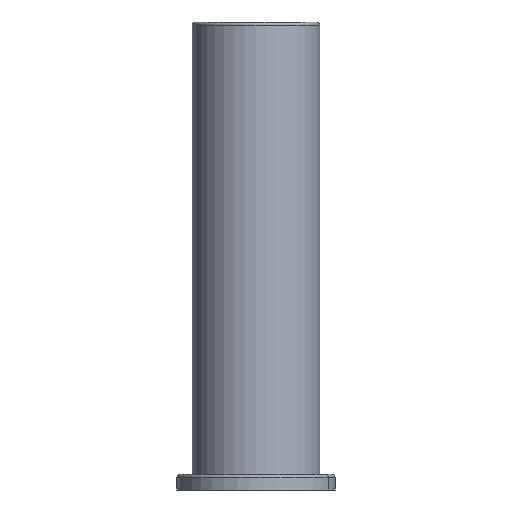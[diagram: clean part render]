
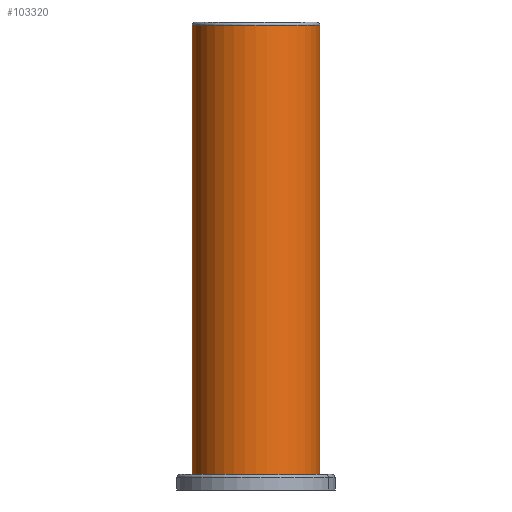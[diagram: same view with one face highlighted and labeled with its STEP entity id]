
A CAD part, left-side view. The second image highlights one B-rep face of the part: STEP entity #103320.
In plain terms, the highlighted cylindrical face has radius 20.5 mm (diameter 41 mm), a partial arc.
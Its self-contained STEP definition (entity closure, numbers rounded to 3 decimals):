
#1175 = DIRECTION ( 'NONE',  ( 0., 0., 1. ) ) ;
#1231 = DIRECTION ( 'NONE',  ( -1., 0., 0. ) ) ;
#10312 = EDGE_CURVE ( 'NONE', #174869, #109566, #41442, .T. ) ;
#17132 = CARTESIAN_POINT ( 'NONE',  ( 0., -3.547, -55. ) ) ;
#25504 = CARTESIAN_POINT ( 'NONE',  ( 0., 16.953, -55. ) ) ;
#26109 = CARTESIAN_POINT ( 'NONE',  ( 0., 16.953, -55. ) ) ;
#27234 = FACE_OUTER_BOUND ( 'NONE', #167891, .T. ) ;
#41442 = CIRCLE ( 'NONE', #100937, 20.5 ) ;
#48547 = ORIENTED_EDGE ( 'NONE', *, *, #88292, .T. ) ;
#52738 = ORIENTED_EDGE ( 'NONE', *, *, #68376, .F. ) ;
#59088 = CARTESIAN_POINT ( 'NONE',  ( 0., -3.547, -55. ) ) ;
#63108 = DIRECTION ( 'NONE',  ( 0., 0., 1. ) ) ;
#68376 = EDGE_CURVE ( 'NONE', #174869, #104235, #158208, .T. ) ;
#71055 = ORIENTED_EDGE ( 'NONE', *, *, #10312, .T. ) ;
#76926 = CIRCLE ( 'NONE', #136635, 20.5 ) ;
#80126 = VECTOR ( 'NONE', #1175, 1000. ) ;
#80504 = VERTEX_POINT ( 'NONE', #86644 ) ;
#83750 = DIRECTION ( 'NONE',  ( 0., 0., 1. ) ) ;
#86644 = CARTESIAN_POINT ( 'NONE',  ( 0., -3.547, 89.5 ) ) ;
#88292 = EDGE_CURVE ( 'NONE', #80504, #104235, #76926, .T. ) ;
#89490 = CARTESIAN_POINT ( 'NONE',  ( 0., 37.453, 89.5 ) ) ;
#91549 = CARTESIAN_POINT ( 'NONE',  ( 0., 37.453, -55. ) ) ;
#92982 = CYLINDRICAL_SURFACE ( 'NONE', #166486, 20.5 ) ;
#93916 = DIRECTION ( 'NONE',  ( 0., -1., 0. ) ) ;
#100937 = AXIS2_PLACEMENT_3D ( 'NONE', #26109, #83750, #1231 ) ;
#103320 = ADVANCED_FACE ( 'NONE', ( #27234 ), #92982, .T. ) ;
#104235 = VERTEX_POINT ( 'NONE', #89490 ) ;
#107119 = DIRECTION ( 'NONE',  ( 0., -1., 0. ) ) ;
#109566 = VERTEX_POINT ( 'NONE', #59088 ) ;
#120476 = DIRECTION ( 'NONE',  ( 0., 0., 1. ) ) ;
#123133 = DIRECTION ( 'NONE',  ( 0., 0., -1. ) ) ;
#136635 = AXIS2_PLACEMENT_3D ( 'NONE', #147215, #123133, #93916 ) ;
#147215 = CARTESIAN_POINT ( 'NONE',  ( 0., 16.953, 89.5 ) ) ;
#152916 = LINE ( 'NONE', #17132, #80126 ) ;
#157815 = VECTOR ( 'NONE', #63108, 1000. ) ;
#158208 = LINE ( 'NONE', #91549, #157815 ) ;
#164372 = EDGE_CURVE ( 'NONE', #109566, #80504, #152916, .T. ) ;
#165524 = CARTESIAN_POINT ( 'NONE',  ( 0., 37.453, -55. ) ) ;
#166486 = AXIS2_PLACEMENT_3D ( 'NONE', #25504, #120476, #107119 ) ;
#167891 = EDGE_LOOP ( 'NONE', ( #52738, #71055, #168739, #48547 ) ) ;
#168739 = ORIENTED_EDGE ( 'NONE', *, *, #164372, .T. ) ;
#174869 = VERTEX_POINT ( 'NONE', #165524 ) ;
